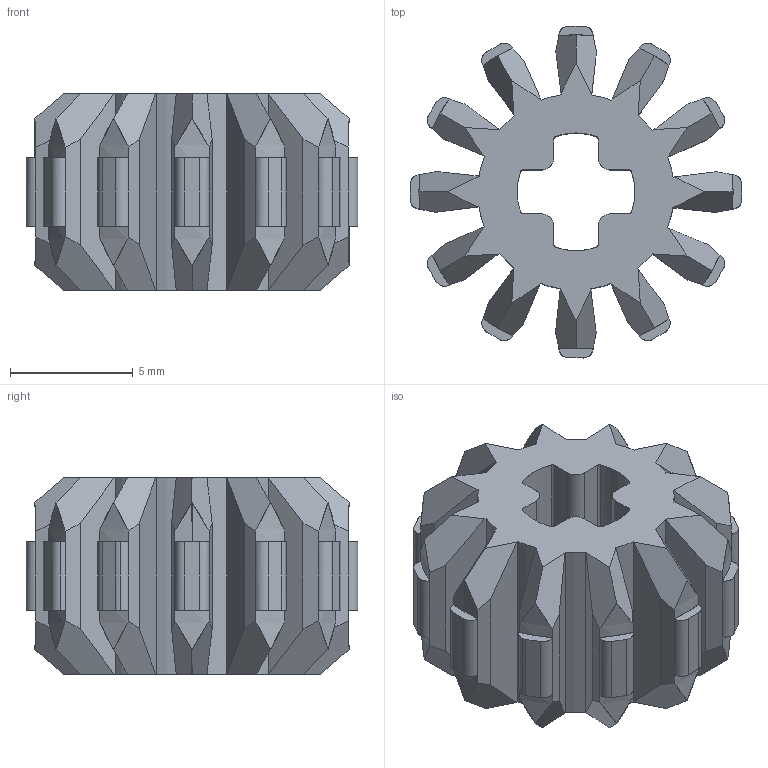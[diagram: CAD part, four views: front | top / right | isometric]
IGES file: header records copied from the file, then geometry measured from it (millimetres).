
Start section: C
Global section: file name: Black_4177431_AVV.iges; native system: By Siemens PLM Incorporated; preprocessor: XPlus GENERIC/IGES 26.1.183; author: Author; organization: Title; date: 20250721.234634; units: millimetre
Bounding box: 13.52 x 13.52 x 8 mm (x, y, z)
Surface area: 887.8 mm2 (no closed solid volume)
Topology: 0 solids, 0 shells, 273 faces, 1384 edges, 1384 vertices
Faces by surface type: bspline 273
